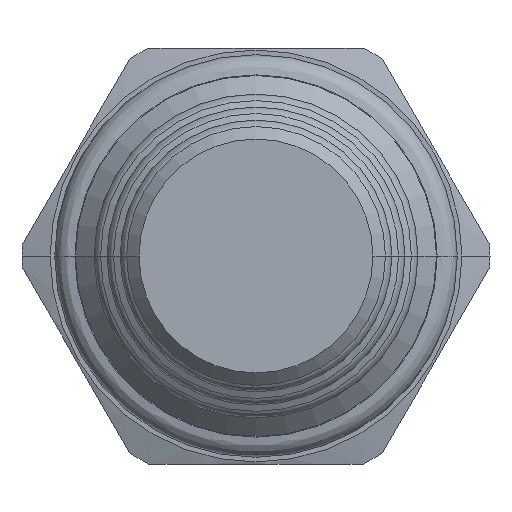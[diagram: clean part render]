
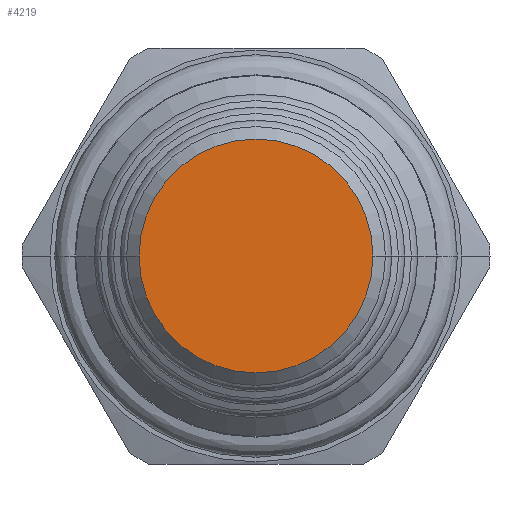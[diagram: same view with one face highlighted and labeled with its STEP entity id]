
A CAD part, front view. The second image highlights one B-rep face of the part: STEP entity #4219.
In plain terms, the highlighted planar face has unit normal (0, -1, 0).
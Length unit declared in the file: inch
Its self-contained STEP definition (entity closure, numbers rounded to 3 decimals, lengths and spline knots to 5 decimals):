
#1621=CARTESIAN_POINT('',(0.,-2.4385,0.));
#1622=DIRECTION('',(0.,1.,0.));
#1623=DIRECTION('',(1.,0.,0.));
#1624=AXIS2_PLACEMENT_3D('',#1621,#1622,#1623);
#1639=CARTESIAN_POINT('',(0.,-2.4385,0.));
#1640=DIRECTION('',(0.,1.,0.));
#1641=DIRECTION('',(-1.,0.,0.));
#1642=AXIS2_PLACEMENT_3D('',#1639,#1640,#1641);
#1807=CARTESIAN_POINT('',(-0.281,-2.4385,0.));
#1808=CARTESIAN_POINT('',(0.281,-2.4385,0.));
#1809=VERTEX_POINT('',#1807);
#1810=VERTEX_POINT('',#1808);
#4209=CARTESIAN_POINT('',(0.,-2.4385,0.));
#4210=DIRECTION('',(0.,1.,0.));
#4211=DIRECTION('',(1.,0.,0.));
#4212=AXIS2_PLACEMENT_3D('',#4209,#4210,#4211);
#4213=PLANE('',#4212);
#4214=ORIENTED_EDGE('',*,*,#4199,.T.);
#4216=ORIENTED_EDGE('',*,*,#4215,.T.);
#4217=EDGE_LOOP('',(#4214,#4216));
#4218=FACE_OUTER_BOUND('',#4217,.F.);
#4219=ADVANCED_FACE('',(#4218),#4213,.F.);
#1625=CIRCLE('',#1624,0.281);
#1643=CIRCLE('',#1642,0.281);
#4199=EDGE_CURVE('',#1810,#1809,#1625,.T.);
#4215=EDGE_CURVE('',#1809,#1810,#1643,.T.);
